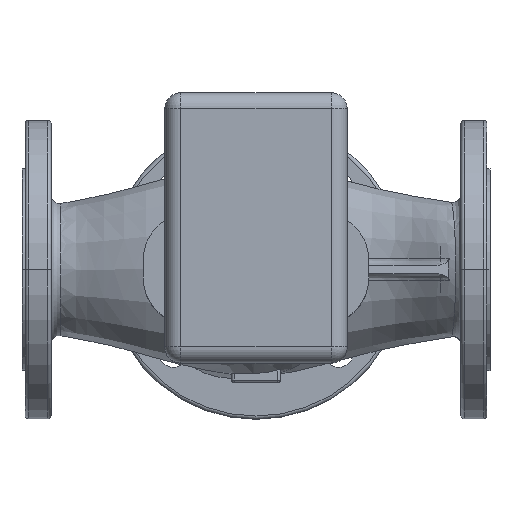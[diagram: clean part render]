
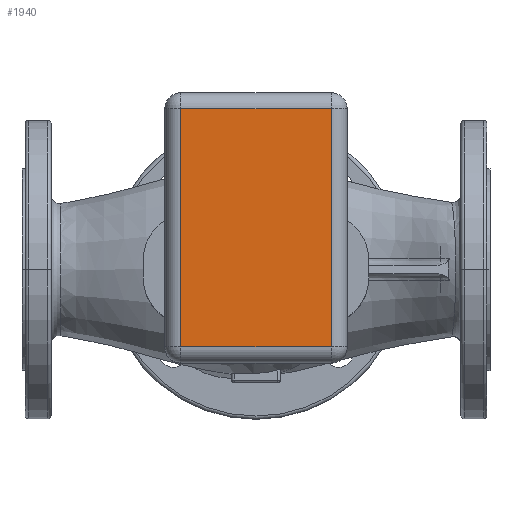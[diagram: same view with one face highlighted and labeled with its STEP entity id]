
A CAD part, top view. The second image highlights one B-rep face of the part: STEP entity #1940.
In plain terms, the highlighted planar face has unit normal (0, 0, 1).
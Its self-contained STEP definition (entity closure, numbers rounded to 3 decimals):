
#278 = CARTESIAN_POINT ( 'NONE',  ( -56.5, 99., 534.5 ) ) ;
#1912 = DIRECTION ( 'NONE',  ( 0., -1., 0. ) ) ;
#1940 = ADVANCED_FACE ( 'NONE', ( #10730 ), #2559, .T. ) ;
#2559 = PLANE ( 'NONE',  #7585 ) ;
#2717 = CARTESIAN_POINT ( 'NONE',  ( 56.5, -48.5, 534.5 ) ) ;
#2783 = CARTESIAN_POINT ( 'NONE',  ( -46.5, -48.5, 534.5 ) ) ;
#3137 = LINE ( 'NONE', #278, #14328 ) ;
#3260 = LINE ( 'NONE', #7473, #6321 ) ;
#4410 = CARTESIAN_POINT ( 'NONE',  ( 46.5, -48.5, 534.5 ) ) ;
#5024 = VERTEX_POINT ( 'NONE', #4410 ) ;
#6182 = VECTOR ( 'NONE', #1912, 1000. ) ;
#6321 = VECTOR ( 'NONE', #11613, 1000. ) ;
#6481 = EDGE_CURVE ( 'NONE', #9877, #5024, #15312, .T. ) ;
#6512 = DIRECTION ( 'NONE',  ( 1., 0., 0. ) ) ;
#6528 = CARTESIAN_POINT ( 'NONE',  ( 46.5, 99., 534.5 ) ) ;
#7473 = CARTESIAN_POINT ( 'NONE',  ( 46.5, 109., 534.5 ) ) ;
#7585 = AXIS2_PLACEMENT_3D ( 'NONE', #16709, #13518, #6512 ) ;
#8893 = LINE ( 'NONE', #12970, #6182 ) ;
#8971 = ORIENTED_EDGE ( 'NONE', *, *, #16795, .T. ) ;
#9367 = VECTOR ( 'NONE', #12754, 1000. ) ;
#9687 = EDGE_LOOP ( 'NONE', ( #11746, #17639, #8971, #17689 ) ) ;
#9877 = VERTEX_POINT ( 'NONE', #2783 ) ;
#10184 = VERTEX_POINT ( 'NONE', #16100 ) ;
#10436 = VERTEX_POINT ( 'NONE', #6528 ) ;
#10675 = EDGE_CURVE ( 'NONE', #10436, #10184, #3137, .T. ) ;
#10730 = FACE_OUTER_BOUND ( 'NONE', #9687, .T. ) ;
#11613 = DIRECTION ( 'NONE',  ( 0., 1., 0. ) ) ;
#11746 = ORIENTED_EDGE ( 'NONE', *, *, #14054, .T. ) ;
#12754 = DIRECTION ( 'NONE',  ( 1., 0., 0. ) ) ;
#12970 = CARTESIAN_POINT ( 'NONE',  ( -46.5, -58.5, 534.5 ) ) ;
#13518 = DIRECTION ( 'NONE',  ( 0., 0., 1. ) ) ;
#14054 = EDGE_CURVE ( 'NONE', #5024, #10436, #3260, .T. ) ;
#14328 = VECTOR ( 'NONE', #15632, 1000. ) ;
#15312 = LINE ( 'NONE', #2717, #9367 ) ;
#15632 = DIRECTION ( 'NONE',  ( -1., 0., 0. ) ) ;
#16100 = CARTESIAN_POINT ( 'NONE',  ( -46.5, 99., 534.5 ) ) ;
#16709 = CARTESIAN_POINT ( 'NONE',  ( 0., 0., 534.5 ) ) ;
#16795 = EDGE_CURVE ( 'NONE', #10184, #9877, #8893, .T. ) ;
#17639 = ORIENTED_EDGE ( 'NONE', *, *, #10675, .T. ) ;
#17689 = ORIENTED_EDGE ( 'NONE', *, *, #6481, .T. ) ;
